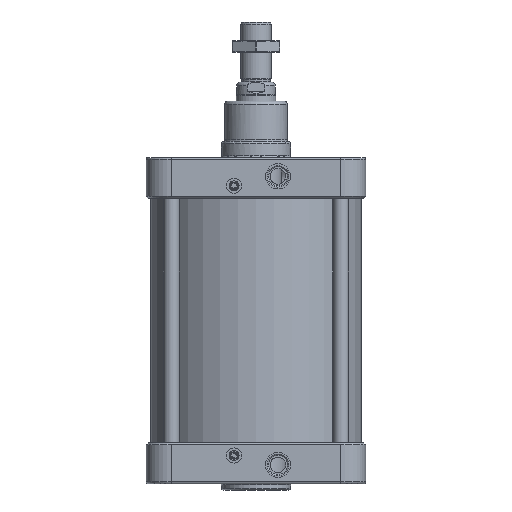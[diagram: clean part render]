
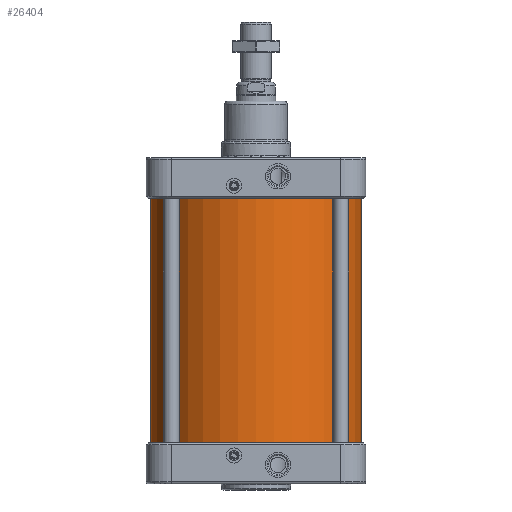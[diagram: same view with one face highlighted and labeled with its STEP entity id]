
A CAD part, front view. The second image highlights one B-rep face of the part: STEP entity #26404.
In plain terms, the highlighted cylindrical face has radius 168 mm (diameter 336 mm), a full revolution.
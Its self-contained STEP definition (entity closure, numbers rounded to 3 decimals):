
#2804=CIRCLE('',#29645,168.);
#2805=CIRCLE('',#29647,168.);
#3478=FACE_BOUND('',#7098,.T.);
#5147=FACE_OUTER_BOUND('',#7097,.T.);
#7097=EDGE_LOOP('',(#22547));
#7098=EDGE_LOOP('',(#22548));
#11979=VERTEX_POINT('',#64759);
#11980=VERTEX_POINT('',#64762);
#15511=EDGE_CURVE('',#11979,#11979,#2804,.T.);
#15512=EDGE_CURVE('',#11980,#11980,#2805,.T.);
#22547=ORIENTED_EDGE('',*,*,#15511,.T.);
#22548=ORIENTED_EDGE('',*,*,#15512,.T.);
#23070=CYLINDRICAL_SURFACE('',#29646,168.);
#26404=ADVANCED_FACE('',(#5147,#3478),#23070,.T.);
#29645=AXIS2_PLACEMENT_3D('',#64760,#36878,#36879);
#29646=AXIS2_PLACEMENT_3D('',#64761,#36880,#36881);
#29647=AXIS2_PLACEMENT_3D('',#64763,#36882,#36883);
#36878=DIRECTION('center_axis',(0.,0.,1.));
#36879=DIRECTION('ref_axis',(-1.,0.,0.));
#36880=DIRECTION('center_axis',(0.,0.,1.));
#36881=DIRECTION('ref_axis',(-1.,0.,0.));
#36882=DIRECTION('center_axis',(0.,0.,-1.));
#36883=DIRECTION('ref_axis',(-1.,0.,0.));
#64759=CARTESIAN_POINT('',(168.,0.,-195.));
#64760=CARTESIAN_POINT('Origin',(0.,0.,-195.));
#64761=CARTESIAN_POINT('Origin',(0.,0.,0.));
#64762=CARTESIAN_POINT('',(168.,0.,195.));
#64763=CARTESIAN_POINT('Origin',(0.,0.,195.));
